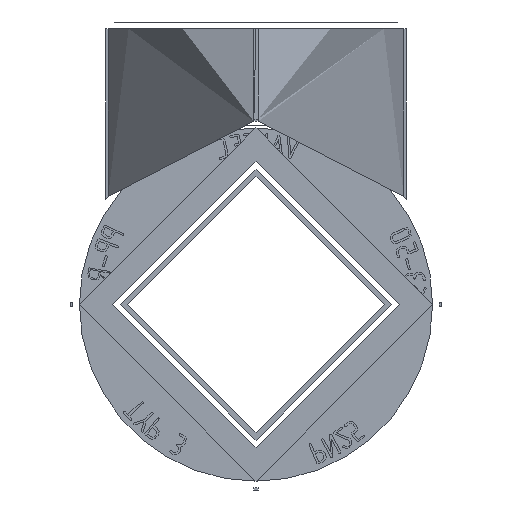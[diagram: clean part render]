
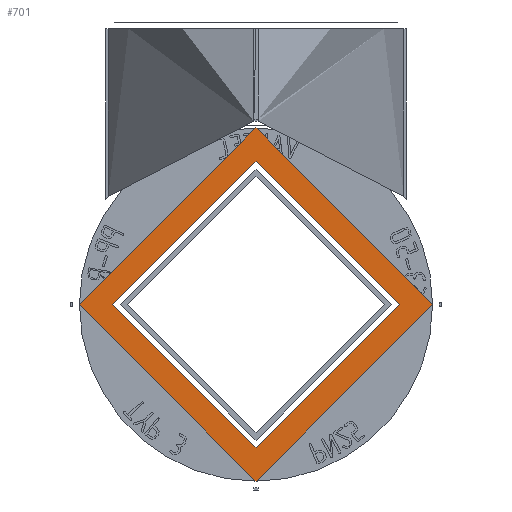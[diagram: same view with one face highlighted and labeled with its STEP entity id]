
A CAD part, front view. The second image highlights one B-rep face of the part: STEP entity #701.
In plain terms, the highlighted planar face has unit normal (0, -1, 0).
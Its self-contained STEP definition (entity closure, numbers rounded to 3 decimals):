
#701=ADVANCED_FACE('',(#5441,#5443),#5445,.F.);
#5441=FACE_BOUND('',#5442,.T.);
#5442=EDGE_LOOP('',(#13347));
#5443=FACE_BOUND('',#5444,.T.);
#5444=EDGE_LOOP('',(#13348));
#5445=PLANE('',#5446);
#5446=AXIS2_PLACEMENT_3D('',#5447,#5448,#5449);
#5447=CARTESIAN_POINT('',(0.,-64.,0.));
#5448=DIRECTION('',(0.,1.,0.));
#5449=DIRECTION('',(-1.,0.,0.));
#13347=ORIENTED_EDGE('',*,*,#18711,.F.);
#13348=ORIENTED_EDGE('',*,*,#18754,.T.);
#18711=EDGE_CURVE('',#23077,#23077,#23078,.T.);
#18754=EDGE_CURVE('',#23140,#23140,#23141,.F.);
#23077=VERTEX_POINT('',#32454);
#23078=CIRCLE('',#32455,40.);
#23140=VERTEX_POINT('',#32727);
#23141=CIRCLE('',#32728,32.437);
#32454=CARTESIAN_POINT('',(-40.,-64.,0.));
#32455=AXIS2_PLACEMENT_3D('',#32456,#32457,#32458);
#32456=CARTESIAN_POINT('',(0.,-64.,0.));
#32457=DIRECTION('',(0.,1.,0.));
#32458=DIRECTION('',(-1.,0.,0.));
#32727=CARTESIAN_POINT('',(-32.437,-64.,0.));
#32728=AXIS2_PLACEMENT_3D('',#32729,#32730,#32731);
#32729=CARTESIAN_POINT('',(0.,-64.,0.));
#32730=DIRECTION('',(0.,-1.,0.));
#32731=DIRECTION('',(-1.,0.,0.));
